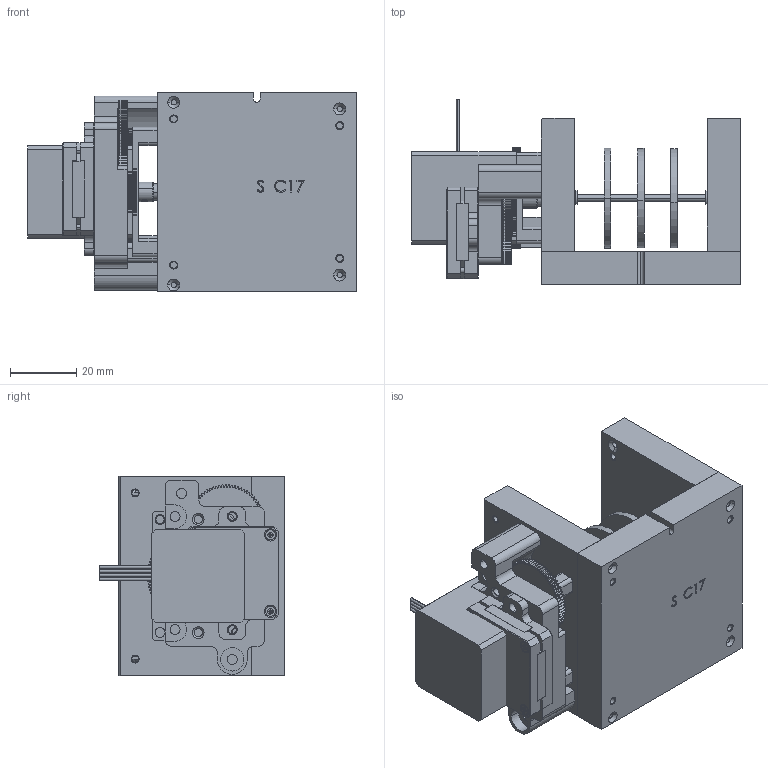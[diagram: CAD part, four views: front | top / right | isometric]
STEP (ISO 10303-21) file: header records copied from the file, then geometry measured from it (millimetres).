
FILE_DESCRIPTION (( 'STEP AP214' ), '1' );
FILE_NAME ('Assieme gruppo Sud.STEP', '2016-02-27T12:59:52', ( '' ), ( '' ), 'SwSTEP 2.0', 'SolidWorks 2012', '' );
FILE_SCHEMA (( 'AUTOMOTIVE_DESIGN' ));
Length unit declared in the file: millimetre
Products named in the file (29): seeger espansione d2; Assieme platina NordSud; motore step STF2818X0504; ISO 7046-1 Z M1,6 x 8 - 4.8 - Z; motore pamoco serie28; C10; C8; C17_N; Frontplatte_STF2818X0504; spur gear_iso_ISO - Spur gear 0.3M 75T 20PA 2.5FW ---S75A75H50L4.0N; spur gear_iso_ISO - Spur gear 0.3M 20T 20PA 2.5FW ---S20A75H50L2.0N; alberino semplice; Assieme gruppo Sud; pernetto rinvio; C15_N; Endplatte_STF2818X0504; spur gear_iso_ISO - Spur gear 0.3M 100T 20PA 2.5FW ---S100A75H50L4.0N; Welle_STF2818X0504; Stator_STF2818X0504; ass SUD dis_mot oriz; C16; radial ball bearing_68_skf_SKF - 623 - 8,SI,NC,8_68; spur gear_iso_ISO - Spur gear 0.3M 25T 20PA 2.5FW ---S25A75H50L3.0N; flngia pamoco; instrument ball bearing_68_am_AFBMA 12.1.4.1 - 0020-6 - 8,SI,NC,8_68; pernetto centrale; platina riduttore_3; C9; Assieme mot Pamoco e flangia
Assembly tree (35 placements, depth 4):
  Assieme gruppo Sud
    C16
    C17_N
    C15_N
    ass SUD dis_mot oriz
      C8
      C9
      C10
      alberino semplice
    instrument ball bearing_68_am_AFBMA 12.1.4.1 - 0020-6 - 8,SI,NC,8_68  x2
    Assieme mot Pamoco e flangia
      flngia pamoco
      motore pamoco serie28
    Assieme platina NordSud
      platina riduttore_3
      pernetto rinvio
      pernetto centrale
      spur gear_iso_ISO - Spur gear 0.3M 20T 20PA 2.5FW ---S20A75H50L2.0N
      spur gear_iso_ISO - Spur gear 0.3M 75T 20PA 2.5FW ---S75A75H50L4.0N
      spur gear_iso_ISO - Spur gear 0.3M 100T 20PA 2.5FW ---S100A75H50L4.0N
      radial ball bearing_68_skf_SKF - 623 - 8,SI,NC,8_68  x2
      instrument ball bearing_68_am_AFBMA 12.1.4.1 - 0020-6 - 8,SI,NC,8_68
      spur gear_iso_ISO - Spur gear 0.3M 25T 20PA 2.5FW ---S25A75H50L3.0N
      motore step STF2818X0504
        Frontplatte_STF2818X0504
        Stator_STF2818X0504
        Endplatte_STF2818X0504
        Welle_STF2818X0504
        ISO 7046-1 Z M1,6 x 8 - 4.8 - Z  x4
    seeger espansione d2  x2
Bounding box: 99 x 55.78 x 60 mm (x, y, z)
Volume: 137704.7 mm3; surface area: 57739 mm2
Topology: 32 solids, 32 shells, 2227 faces, 6001 edges, 3903 vertices
Faces by surface type: cylinder 1327, plane 461, cone 244, bspline 135, torus 60
Entity records: 77460 total; most frequent: CARTESIAN_POINT 22265, DIRECTION 11437, ORIENTED_EDGE 10654, EDGE_CURVE 5327, AXIS2_PLACEMENT_3D 4576, VERTEX_POINT 3479, CIRCLE 2692, LINE 2285
